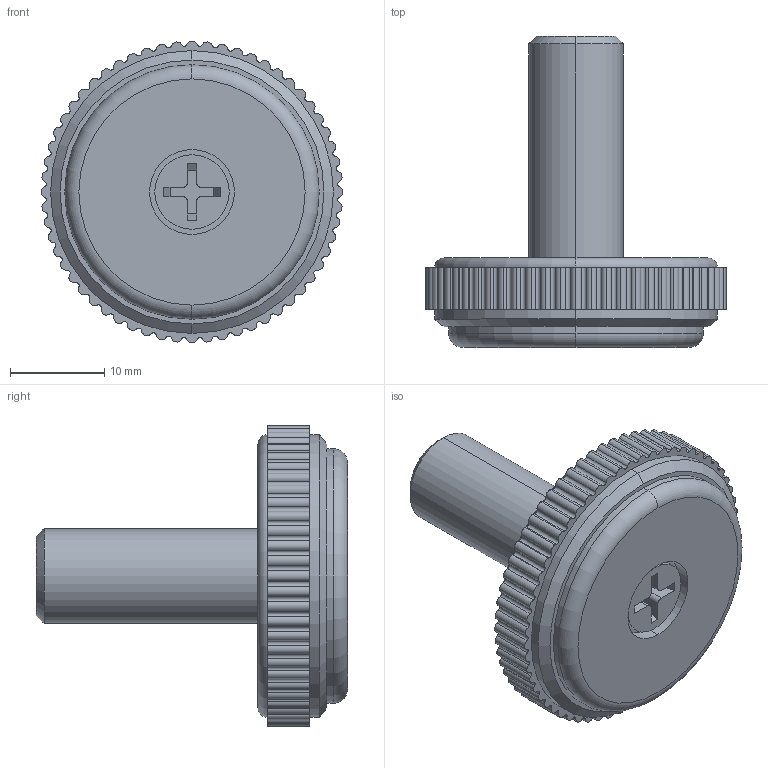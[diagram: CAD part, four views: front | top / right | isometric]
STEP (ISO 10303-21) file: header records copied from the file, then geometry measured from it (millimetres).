
FILE_DESCRIPTION (( 'STEP AP203' ), '1' );
FILE_NAME ('A401-32U-1023_3D.STEP', '2019-02-20T07:40:55', ( '' ), ( '' ), 'SwSTEP 2.0', 'SolidWorks 2018', '' );
FILE_SCHEMA (( 'CONFIG_CONTROL_DESIGN' ));
Length unit declared in the file: millimetre
Products named in the file (1): A401-32U-1023_3D
Bounding box: 32 x 33 x 32 mm (x, y, z)
Volume: 8426.6 mm3; surface area: 3264.1 mm2
Topology: 1 solids, 1 shells, 208 faces, 591 edges, 392 vertices
Faces by surface type: cylinder 179, plane 21, torus 4, cone 4
Entity records: 7056 total; most frequent: DIRECTION 1381, CARTESIAN_POINT 1192, ORIENTED_EDGE 1182, EDGE_CURVE 591, AXIS2_PLACEMENT_3D 581, VERTEX_POINT 392, CIRCLE 372, VECTOR 219
